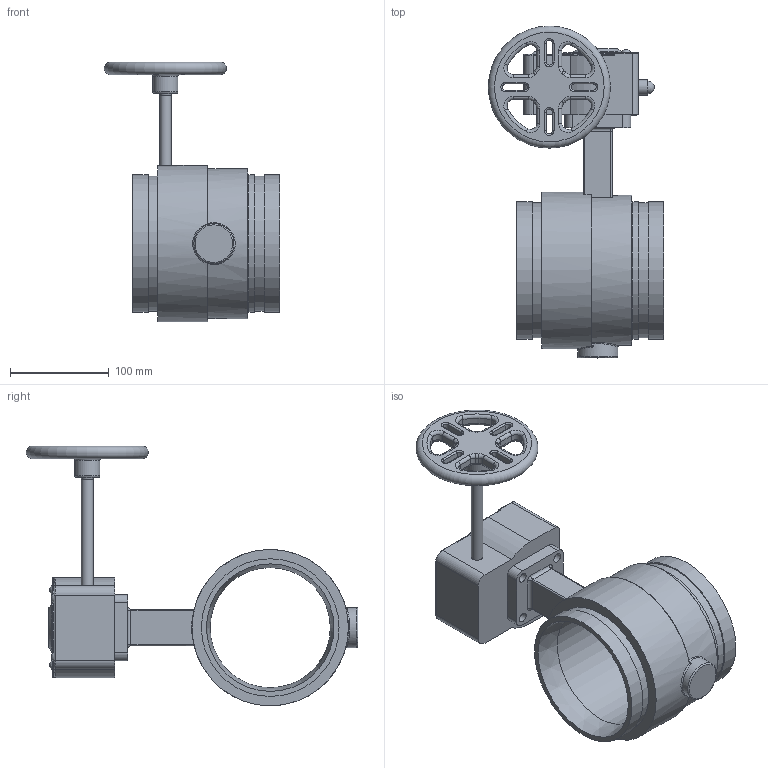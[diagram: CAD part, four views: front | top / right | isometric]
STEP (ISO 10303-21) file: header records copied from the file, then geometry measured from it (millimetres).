
FILE_DESCRIPTION(/* description */ ('Vic Series 461 Vic-300 MasterSeal SS Butterfly Valve w/Gear Op','CAx-IF Rec.Pracs.---Representation and Presentation of Product Manufacturing Information (PMI)---4.0---2014-10-13'),/* implementation_level */ '2;1');
FILE_NAME(/* name */ 'C:\Users\kkamble\AppData\Roaming\Autodesk\ApplicationPlugins\Back Up\Victaulic_SS-OGS_Valve Butterfly Vic-300 Masterseal GO_Series 461 (OGS)\Victaulic_SS-OGS_Valve Butterfly Vic-300 Masterseal GO_05.0 (139.7) (125).stp',/* time_stamp */ '2020-09-02T14:51:05+05:00',/* author */ ('jbrannon'),/* organization */ ('Victaulic'),/* preprocessor_version */ 'ST-DEVELOPER v17.2',/* originating_system */ 'Autodesk Inventor 2019',/* authorisation */ '');
FILE_SCHEMA (('AP242_MANAGED_MODEL_BASED_3D_ENGINEERING_MIM_LF { 1 0 10303 442 1 1 4 }'));
Length unit declared in the file: inch
Products named in the file (3): 461-05.0 (139.7); 461-05.0(139.7); 461-05.0
Assembly tree (2 placements, depth 2):
  461-05.0 (139.7)
    461-05.0(139.7)
    461-05.0
Bounding box: 178.05 x 336.55 x 263.52 mm (x, y, z)
Volume: 1790729.8 mm3; surface area: 250542.9 mm2
Topology: 2 solids, 2 shells, 361 faces, 854 edges, 520 vertices
Faces by surface type: cylinder 141, plane 96, torus 93, bspline 16, sphere 12, cone 3
Full cylindrical faces by diameter (mm): 7.938 x4, 9.652 x4, 11.938 x1, 12.7 x2, 15.875 x2, 25.4 x1, 40.64 x1, 50.8 x1, 54.102 x1, 121.92 x1, 137.033 x2, 139.7 x3, 152.4 x1, 158.75 x1
Entity records: 11610 total; most frequent: CARTESIAN_POINT 2461, DIRECTION 2015, ORIENTED_EDGE 1696, AXIS2_PLACEMENT_3D 852, EDGE_CURVE 848, VERTEX_POINT 520, CIRCLE 498, EDGE_LOOP 416
